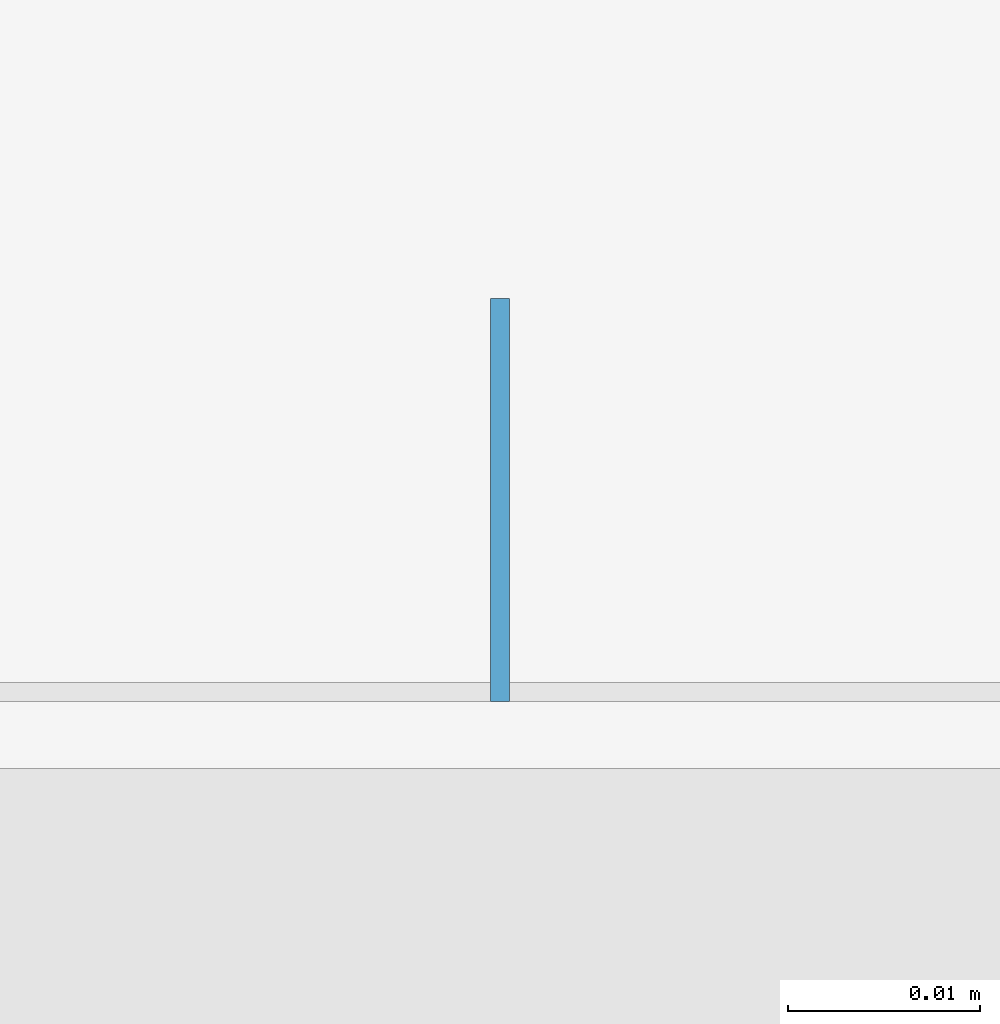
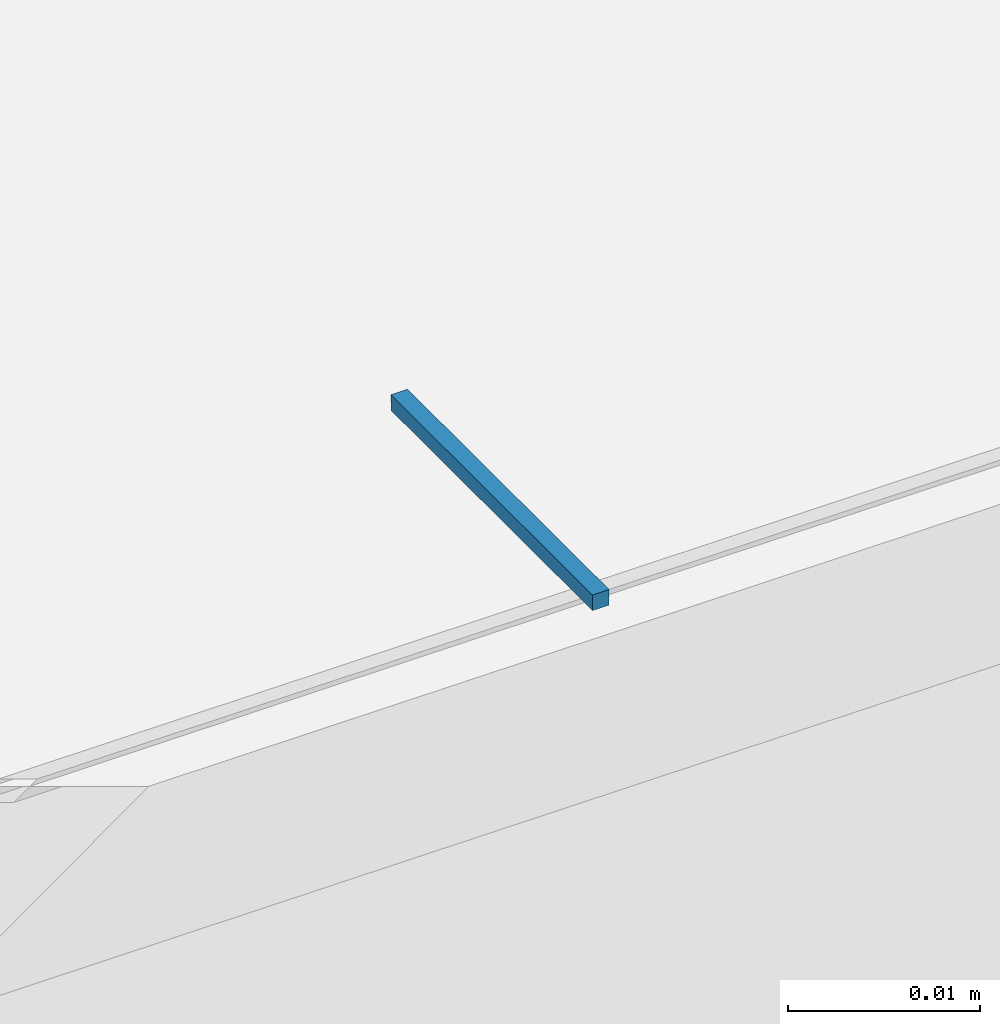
# One storey, part 33 of 230: 1 beam.
"""IFC4X3_ADD2 building model written with IfcOpenShell, lengths in millimetres."""

import ifcopenshell
import ifcopenshell.guid

model = None  # the IFC model being written
_history = None  # IfcOwnerHistory: only IFC2X3 demands one
_inside = {}  # id of a spatial element -> (the spatial element, [elements in it])
_under = {}  # id of a project, library or spatial element -> (it, [spatial elements below it])
_declared = {}  # id of a project -> (the project, [libraries it declares])
_typed = {}  # id of a type object -> (the type object, [elements of that type])
_made_of = {}  # id of a material, layer set ... -> (it, [elements and type objects made of it])


def new_model(schema):
    """Start an empty IFC model of exactly this schema.

    Asked for "IFC4X3", IfcOpenShell would pick the latest addendum, in which some entities
    have other attributes; the version numbers below select the first issue.
    IFC2X3 requires an IfcOwnerHistory on every rooted entity: one is made here for all.
    """
    global model, _history
    if schema == "IFC4X3":
        model = ifcopenshell.file(schema_version=(4, 3, 0, 0))
    else:
        model = ifcopenshell.file(schema=schema)
    _inside.clear()
    _under.clear()
    _declared.clear()
    _typed.clear()
    _made_of.clear()
    _history = None
    if model.schema == "IFC2X3":
        org = make("IfcOrganization", Name="unknown")
        user = make(
            "IfcPersonAndOrganization",
            ThePerson=make("IfcPerson", FamilyName="unknown"),
            TheOrganization=org,
        )
        app = make(
            "IfcApplication",
            ApplicationDeveloper=org,
            Version="unknown",
            ApplicationFullName="unknown",
            ApplicationIdentifier="unknown",
        )
        _history = make(
            "IfcOwnerHistory",
            OwningUser=user,
            OwningApplication=app,
            ChangeAction="ADDED",
            CreationDate=0,
        )
    return model


def make(cls, **values):
    """One entity of the class cls with the attributes given. An attribute that is None is left unset."""
    return model.create_entity(
        cls, **{name: value for name, value in values.items() if value is not None}
    )


def rooted(cls, **values):
    """An entity with a GlobalId (a new one), such as an element, a storey or a relation."""
    return make(cls, GlobalId=ifcopenshell.guid.new(), OwnerHistory=_history, **values)


def si_unit(unit_type, name, prefix=None):
    """IfcSIUnit, for example si_unit("LENGTHUNIT", "METRE", prefix="MILLI")."""
    return make("IfcSIUnit", UnitType=unit_type, Prefix=prefix, Name=name)


def assignment(units):
    """IfcUnitAssignment: the units of a project."""
    return None if units is None else make("IfcUnitAssignment", Units=units)


def point(xyz):
    """IfcCartesianPoint."""
    return None if xyz is None else make("IfcCartesianPoint", Coordinates=xyz)


def direction(xyz):
    """IfcDirection."""
    return None if xyz is None else make("IfcDirection", DirectionRatios=xyz)


def frame(location, z_axis=None, x_axis=None):
    """IfcAxis2Placement3D, a coordinate frame: its origin and axes. An axis left out is left unset."""
    return make(
        "IfcAxis2Placement3D",
        Location=point(location),
        Axis=direction(z_axis),
        RefDirection=direction(x_axis),
    )


def frame_2d(location, x_axis=None):
    """IfcAxis2Placement2D, a coordinate frame in the plane: its origin and x axis."""
    return make(
        "IfcAxis2Placement2D", Location=point(location), RefDirection=direction(x_axis)
    )


def origin_with_axes():
    """The frame at (0, 0, 0) with the z axis (0, 0, 1) and the x axis (1, 0, 0) written out."""
    return frame((0.0, 0.0, 0.0), z_axis=(0.0, 0.0, 1.0), x_axis=(1.0, 0.0, 0.0))


def place(relative_to, where):
    """IfcLocalPlacement: puts the frame where relative to a parent placement (None: the world)."""
    return make(
        "IfcLocalPlacement", PlacementRelTo=relative_to, RelativePlacement=where
    )


def context(
    kind, dimensions, precision=None, world=None, true_north=None, identifier=None
):
    """IfcGeometricRepresentationContext, for example the 3D "Model" context."""
    return make(
        "IfcGeometricRepresentationContext",
        ContextIdentifier=identifier,
        ContextType=kind,
        CoordinateSpaceDimension=dimensions,
        Precision=precision,
        WorldCoordinateSystem=world,
        TrueNorth=true_north,
    )


def subcontext(parent, identifier, kind, view, scale=None):
    """IfcGeometricRepresentationSubContext, for example "Body" below "Model"."""
    return make(
        "IfcGeometricRepresentationSubContext",
        ContextIdentifier=identifier,
        ContextType=kind,
        ParentContext=parent,
        TargetScale=scale,
        TargetView=view,
    )


def project(units=None, contexts=None):
    """IfcProject with its units and contexts."""
    return rooted(
        "IfcProject",
        Name="project",
        RepresentationContexts=contexts,
        UnitsInContext=assignment(units),
    )


def spatial(cls, under=None, at=None, **own):
    """A site, building, storey or space (cls), placed at a placement, below another one or the project."""
    s = rooted(cls, ObjectPlacement=at, **own)
    if under is not None:
        _under.setdefault(under.id(), (under, []))[1].append(s)
    return s


def profile(cls, at=None, kind="AREA", **sizes):
    """A parametric profile (cls). Its sizes go by their IFC names, for example OverallWidth=200.0."""
    return make(cls, ProfileType=kind, Position=at, **sizes)


def rectangle(**sizes):
    """IfcRectangleProfileDef."""
    return profile("IfcRectangleProfileDef", **sizes)


def extrude(swept, where, along, depth):
    """IfcExtrudedAreaSolid: the profile swept, set in the frame where, extruded along a direction by depth."""
    return make(
        "IfcExtrudedAreaSolid",
        SweptArea=swept,
        Position=where,
        ExtrudedDirection=direction(along),
        Depth=depth,
    )


def shape(context_of_items, identifier, shape_type, items):
    """IfcShapeRepresentation: the items that make up one representation, for example the "Body"."""
    return make(
        "IfcShapeRepresentation",
        ContextOfItems=context_of_items,
        RepresentationIdentifier=identifier,
        RepresentationType=shape_type,
        Items=items,
    )


def material(Name=None, Category=None):
    """IfcMaterial."""
    return make("IfcMaterial", Name=Name, Category=Category)


def made_of(thing, what):
    """Note that an element or type object is made of a material, layer set ...; save() writes the relation."""
    if what is not None:
        _made_of.setdefault(what.id(), (what, []))[1].append(thing)
    return thing


def element(
    cls,
    number,
    at=None,
    inside=None,
    cuts=None,
    type_object=None,
    material=None,
    context=None,
    identifier="Body",
    shape_type=None,
    held_by="IfcProductDefinitionShape",
    body=None,
    shapes=None,
    **own,
):
    """One element of the class cls, such as IfcWall. Its Tag is "e" and its number.

    at: its placement. inside: the storey or other place that contains it. cuts: it is an
    opening in that element (IfcRelVoidsElement). A single representation is given by context,
    identifier, shape_type and body (its items); several are given by shapes. held_by: the class
    of the entity that holds the representations. save() writes the other relations.
    """
    e = rooted(cls, Tag="e%d" % number, ObjectPlacement=at, **own)
    if body is not None:
        shapes = [shape(context, identifier, shape_type, body)]
    if shapes is not None:
        e.Representation = make(held_by, Representations=shapes)
    if inside is not None:
        _inside.setdefault(inside.id(), (inside, []))[1].append(e)
    if cuts is not None:
        rooted(
            "IfcRelVoidsElement", RelatingBuildingElement=cuts, RelatedOpeningElement=e
        )
    if type_object is not None:
        _typed.setdefault(type_object.id(), (type_object, []))[1].append(e)
    return made_of(e, material)


def aggregate(whole, parts):
    """IfcRelAggregates: a whole, such as a stair, and the parts it consists of."""
    return rooted("IfcRelAggregates", RelatingObject=whole, RelatedObjects=parts)


def save(model, path):
    """Write the relations noted so far, then the file.

    IfcRelAggregates (storeys below a building ...), IfcRelContainedInSpatialStructure (elements
    in a storey), IfcRelDefinesByType, IfcRelAssociatesMaterial and IfcRelDeclares: one each for
    every whole, place, type object, material and project.
    """
    for whole, parts in _under.values():
        aggregate(whole, parts)
    for where, things in _inside.values():
        rooted(
            "IfcRelContainedInSpatialStructure",
            RelatedElements=things,
            RelatingStructure=where,
        )
    for kind, things in _typed.values():
        rooted("IfcRelDefinesByType", RelatedObjects=things, RelatingType=kind)
    for what, things in _made_of.values():
        rooted("IfcRelAssociatesMaterial", RelatedObjects=things, RelatingMaterial=what)
    for by, libraries in _declared.values():
        rooted("IfcRelDeclares", RelatingContext=by, RelatedDefinitions=libraries)
    model.write(path)


model = new_model("IFC4X3_ADD2")

# Units and contexts
model_context = context("Model", 3, precision=1e-05, world=origin_with_axes(), true_north=direction((0.0, 1.0)))
body_context = subcontext(model_context, "Body", "Model", "MODEL_VIEW")
ifc_project = project(units=[si_unit("LENGTHUNIT", "METRE", prefix="MILLI"), si_unit("AREAUNIT", "SQUARE_METRE"), si_unit("VOLUMEUNIT", "CUBIC_METRE"), si_unit("PLANEANGLEUNIT", "RADIAN"), si_unit("TIMEUNIT", "SECOND"), si_unit("MASSUNIT", "GRAM")], contexts=[model_context])

# Site, building, storey
site_placement = place(None, origin_with_axes())
site = spatial("IfcSite", under=ifc_project, at=site_placement, Name="Site", CompositionType="ELEMENT")
building_placement = place(site_placement, origin_with_axes())
building = spatial("IfcBuilding", under=site, at=building_placement, Name="IFC Building Story")
storey_placement = place(building_placement, origin_with_axes())
storey = spatial("IfcBuildingStorey", under=building, at=storey_placement, Name="ETAGE 00 (0)", Elevation=0.0)

# Beam
ifc_material = material(Name="STEEL/Accessory_invisible")
beam_placement = place(storey_placement, frame((33401.1876471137, -12574.499771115, 3779.5), z_axis=(1.0, 0.0, 0.0), x_axis=(0.0, 0.0, -1.0)))
element("IfcBeam", 1, at=beam_placement, inside=storey, material=ifc_material, Name="ZW1", ObjectType="1*1 4", context=body_context, shape_type="SweptSolid", body=[
    extrude(rectangle(XDim=0.9999999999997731, YDim=20.9999999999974, at=frame_2d((0.0, 5.95523630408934e-12), x_axis=(1.0, 0.0))), origin_with_axes(), (0.0, 0.0, 1.0), 1.0),
])

save(model, "model.ifc")
